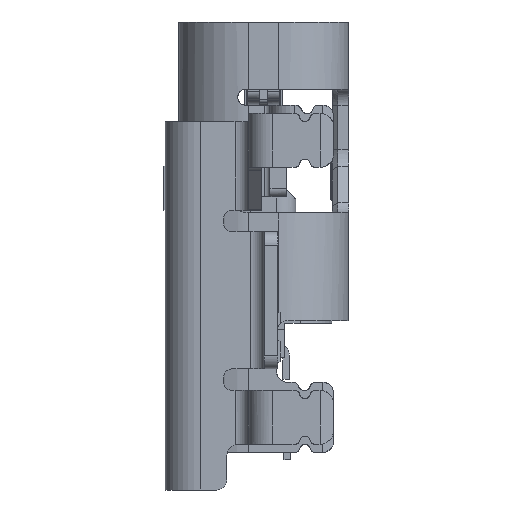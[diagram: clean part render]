
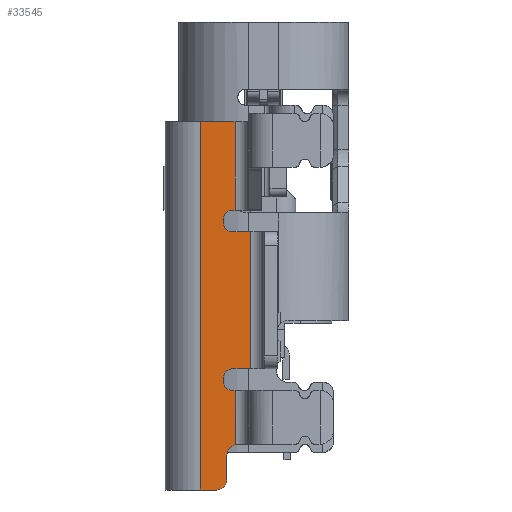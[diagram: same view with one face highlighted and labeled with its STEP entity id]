
A CAD part, left-side view. The second image highlights one B-rep face of the part: STEP entity #33545.
In plain terms, the highlighted planar face has unit normal (-1, 0, 0).
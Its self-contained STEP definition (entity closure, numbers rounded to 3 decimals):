
#27032=CARTESIAN_POINT('',(-4.74,1.18,-1.65));
#27033=VERTEX_POINT('',#27032);
#27041=CARTESIAN_POINT('',(-4.74,0.53,-1.65));
#27042=VERTEX_POINT('',#27041);
#27043=CARTESIAN_POINT('',(-4.74,-5.37,-1.65));
#27044=DIRECTION('',(0.0,1.0,0.0));
#27045=VECTOR('',#27044,1.0);
#27046=LINE('',#27043,#27045);
#27047=EDGE_CURVE('no 26390',#27042,#27033,#27046,.T.);
#27210=CARTESIAN_POINT('',(-4.74,0.88,-8.5));
#27211=VERTEX_POINT('',#27210);
#27218=CARTESIAN_POINT('',(-4.74,1.18,-8.5));
#27219=VERTEX_POINT('',#27218);
#27220=CARTESIAN_POINT('',(-4.74,0.53,-8.5));
#27221=DIRECTION('',(0.0,1.0,0.0));
#27222=VECTOR('',#27221,1.0);
#27223=LINE('',#27220,#27222);
#27224=EDGE_CURVE('no 35230',#27211,#27219,#27223,.T.);
#33388=CARTESIAN_POINT('',(-4.74,1.18,-8.5));
#33389=DIRECTION('',(-0.0,0.0,1.0));
#33390=VECTOR('',#33389,1.0);
#33391=LINE('',#33388,#33390);
#33392=EDGE_CURVE('no 32505',#27219,#27033,#33391,.T.);
#33403=CARTESIAN_POINT('',(-4.74,0.59,-6.65));
#33404=VERTEX_POINT('',#33403);
#33405=CARTESIAN_POINT('',(-4.74,0.53,-6.65));
#33406=VERTEX_POINT('',#33405);
#33407=CARTESIAN_POINT('',(-4.74,0.53,-6.65));
#33408=DIRECTION('',(0.0,-1.0,0.0));
#33409=VECTOR('',#33408,1.0);
#33410=LINE('',#33407,#33409);
#33411=EDGE_CURVE('no 42367',#33404,#33406,#33410,.T.);
#33412=ORIENTED_EDGE('no 4068',*,*,#33411,.F.);
#33413=CARTESIAN_POINT('',(-4.74,0.74,-6.5));
#33414=VERTEX_POINT('',#33413);
#33415=CARTESIAN_POINT('',(-4.74,0.59,-6.5));
#33416=DIRECTION('',(-1.0,-0.0,-0.0));
#33417=DIRECTION('',(0.0,-1.0,0.0));
#33418=AXIS2_PLACEMENT_3D('',#33415,#33416,#33417);
#33419=CIRCLE('',#33418,0.15);
#33420=EDGE_CURVE('no 24852',#33414,#33404,#33419,.T.);
#33421=ORIENTED_EDGE('no 10985',*,*,#33420,.F.);
#33422=CARTESIAN_POINT('',(-4.74,0.74,-6.4));
#33423=VERTEX_POINT('',#33422);
#33424=CARTESIAN_POINT('',(-4.74,0.74,-8.5));
#33425=DIRECTION('',(0.0,0.0,-1.0));
#33426=VECTOR('',#33425,1.0);
#33427=LINE('',#33424,#33426);
#33428=EDGE_CURVE('no 12631',#33423,#33414,#33427,.T.);
#33429=ORIENTED_EDGE('no 4109',*,*,#33428,.F.);
#33430=CARTESIAN_POINT('',(-4.74,0.59,-6.25));
#33431=VERTEX_POINT('',#33430);
#33432=CARTESIAN_POINT('',(-4.74,0.59,-6.4));
#33433=DIRECTION('',(-1.0,-0.0,-0.0));
#33434=DIRECTION('',(0.0,-1.0,0.0));
#33435=AXIS2_PLACEMENT_3D('',#33432,#33433,#33434);
#33436=CIRCLE('',#33435,0.15);
#33437=EDGE_CURVE('no 37747',#33431,#33423,#33436,.T.);
#33438=ORIENTED_EDGE('no 34030',*,*,#33437,.F.);
#33439=CARTESIAN_POINT('',(-4.74,0.24,-6.25));
#33440=VERTEX_POINT('',#33439);
#33441=CARTESIAN_POINT('',(-4.74,0.53,-6.25));
#33442=DIRECTION('',(0.0,1.0,0.0));
#33443=VECTOR('',#33442,1.0);
#33444=LINE('',#33441,#33443);
#33445=EDGE_CURVE('no 34075',#33440,#33431,#33444,.T.);
#33446=ORIENTED_EDGE('no 42155',*,*,#33445,.F.);
#33447=CARTESIAN_POINT('',(-4.74,0.24,-3.7));
#33448=VERTEX_POINT('',#33447);
#33449=CARTESIAN_POINT('',(-4.74,0.24,-8.5));
#33450=DIRECTION('',(0.0,0.0,-1.0));
#33451=VECTOR('',#33450,1.0);
#33452=LINE('',#33449,#33451);
#33453=EDGE_CURVE('no 3671',#33448,#33440,#33452,.T.);
#33454=ORIENTED_EDGE('no 12138',*,*,#33453,.F.);
#33455=CARTESIAN_POINT('',(-4.74,0.59,-3.7));
#33456=VERTEX_POINT('',#33455);
#33457=CARTESIAN_POINT('',(-4.74,0.53,-3.7));
#33458=DIRECTION('',(0.0,-1.0,0.0));
#33459=VECTOR('',#33458,1.0);
#33460=LINE('',#33457,#33459);
#33461=EDGE_CURVE('no 5909',#33456,#33448,#33460,.T.);
#33462=ORIENTED_EDGE('no 9431',*,*,#33461,.F.);
#33463=CARTESIAN_POINT('',(-4.74,0.74,-3.55));
#33464=VERTEX_POINT('',#33463);
#33465=CARTESIAN_POINT('',(-4.74,0.59,-3.55));
#33466=DIRECTION('',(-1.0,-0.0,-0.0));
#33467=DIRECTION('',(0.0,-1.0,0.0));
#33468=AXIS2_PLACEMENT_3D('',#33465,#33466,#33467);
#33469=CIRCLE('',#33468,0.15);
#33470=EDGE_CURVE('no 42770',#33464,#33456,#33469,.T.);
#33471=ORIENTED_EDGE('no 42468',*,*,#33470,.F.);
#33472=CARTESIAN_POINT('',(-4.74,0.74,-3.45));
#33473=VERTEX_POINT('',#33472);
#33474=CARTESIAN_POINT('',(-4.74,0.74,-8.5));
#33475=DIRECTION('',(0.0,0.0,-1.0));
#33476=VECTOR('',#33475,1.0);
#33477=LINE('',#33474,#33476);
#33478=EDGE_CURVE('no 18604',#33473,#33464,#33477,.T.);
#33479=ORIENTED_EDGE('no 32222',*,*,#33478,.F.);
#33480=CARTESIAN_POINT('',(-4.74,0.59,-3.3));
#33481=VERTEX_POINT('',#33480);
#33482=CARTESIAN_POINT('',(-4.74,0.59,-3.45));
#33483=DIRECTION('',(-1.0,-0.0,-0.0));
#33484=DIRECTION('',(0.0,-1.0,0.0));
#33485=AXIS2_PLACEMENT_3D('',#33482,#33483,#33484);
#33486=CIRCLE('',#33485,0.15);
#33487=EDGE_CURVE('no 32153',#33481,#33473,#33486,.T.);
#33488=ORIENTED_EDGE('no 22647',*,*,#33487,.F.);
#33489=CARTESIAN_POINT('',(-4.74,0.53,-3.3));
#33490=VERTEX_POINT('',#33489);
#33491=CARTESIAN_POINT('',(-4.74,0.53,-3.3));
#33492=DIRECTION('',(0.0,1.0,0.0));
#33493=VECTOR('',#33492,1.0);
#33494=LINE('',#33491,#33493);
#33495=EDGE_CURVE('no 7927',#33490,#33481,#33494,.T.);
#33496=ORIENTED_EDGE('no 10529',*,*,#33495,.F.);
#33497=CARTESIAN_POINT('',(-4.74,0.53,-8.5));
#33498=DIRECTION('',(0.0,0.0,-1.0));
#33499=VECTOR('',#33498,1.0);
#33500=LINE('',#33497,#33499);
#33501=EDGE_CURVE('no 40775',#27042,#33490,#33500,.T.);
#33502=ORIENTED_EDGE('no 3103',*,*,#33501,.F.);
#33503=ORIENTED_EDGE('no 2174',*,*,#27047,.T.);
#33504=ORIENTED_EDGE('no 9928',*,*,#33392,.F.);
#33505=ORIENTED_EDGE('no 6828',*,*,#27224,.F.);
#33506=CARTESIAN_POINT('',(-4.74,0.68,-8.3));
#33507=VERTEX_POINT('',#33506);
#33508=CARTESIAN_POINT('',(-4.74,0.88,-8.3));
#33509=DIRECTION('',(1.0,0.0,0.0));
#33510=DIRECTION('',(0.0,-1.0,0.0));
#33511=AXIS2_PLACEMENT_3D('',#33508,#33509,#33510);
#33512=CIRCLE('',#33511,0.2);
#33513=EDGE_CURVE('no 32844',#33507,#27211,#33512,.T.);
#33514=ORIENTED_EDGE('no 27140',*,*,#33513,.F.);
#33515=CARTESIAN_POINT('',(-4.74,0.68,-7.85));
#33516=VERTEX_POINT('',#33515);
#33517=CARTESIAN_POINT('',(-4.74,0.68,-8.5));
#33518=DIRECTION('',(0.0,0.0,-1.0));
#33519=VECTOR('',#33518,1.0);
#33520=LINE('',#33517,#33519);
#33521=EDGE_CURVE('no 13999',#33516,#33507,#33520,.T.);
#33522=ORIENTED_EDGE('no 21314',*,*,#33521,.F.);
#33523=CARTESIAN_POINT('',(-4.74,0.53,-7.656));
#33524=VERTEX_POINT('',#33523);
#33525=CARTESIAN_POINT('',(-4.74,0.48,-7.85));
#33526=DIRECTION('',(-1.0,-0.0,-0.0));
#33527=DIRECTION('',(0.0,-1.0,0.0));
#33528=AXIS2_PLACEMENT_3D('',#33525,#33526,#33527);
#33529=CIRCLE('',#33528,0.2);
#33530=EDGE_CURVE('no 21317',#33524,#33516,#33529,.T.);
#33531=ORIENTED_EDGE('no 2003',*,*,#33530,.F.);
#33532=CARTESIAN_POINT('',(-4.74,0.53,-8.5));
#33533=DIRECTION('',(0.0,0.0,-1.0));
#33534=VECTOR('',#33533,1.0);
#33535=LINE('',#33532,#33534);
#33536=EDGE_CURVE('no 19648',#33406,#33524,#33535,.T.);
#33537=ORIENTED_EDGE('no 31420',*,*,#33536,.F.);
#33538=EDGE_LOOP('',(
    #33412,#33421,#33429,#33438,#33446,#33454,#33462,#33471,#33479,#33488,
    #33496,#33502,#33503,#33504,#33505,#33514,#33522,#33531,#33537));
#33539=FACE_OUTER_BOUND('',#33538,.T.);
#33540=CARTESIAN_POINT('',(-4.74,0.53,-8.5));
#33541=DIRECTION('',(1.0,0.0,0.0));
#33542=DIRECTION('',(-0.0,1.0,0.0));
#33543=AXIS2_PLACEMENT_3D('',#33540,#33541,#33542);
#33544=PLANE('',#33543);
#33545=ADVANCED_FACE('no 25793',(#33539),#33544,.F.);
